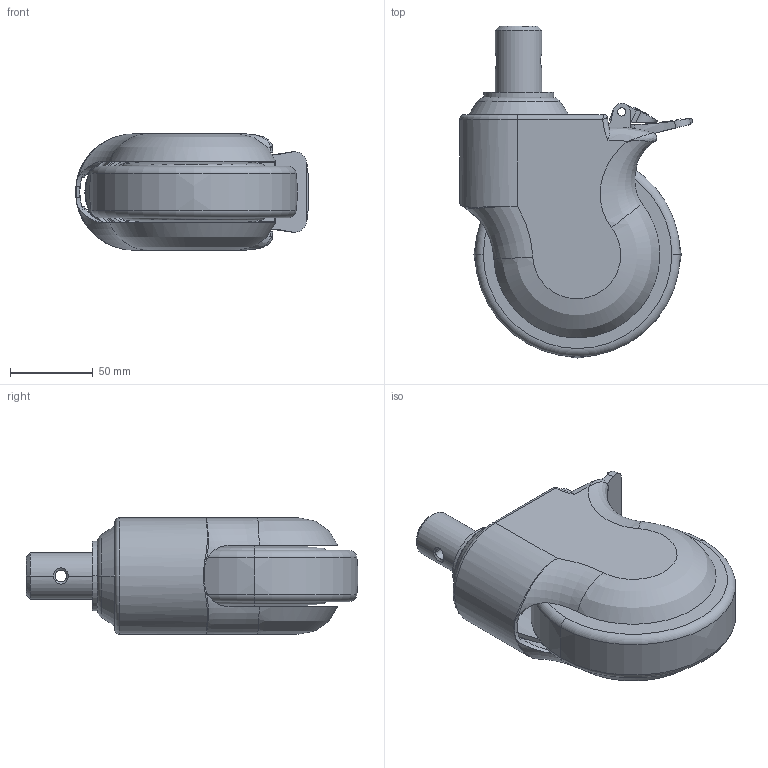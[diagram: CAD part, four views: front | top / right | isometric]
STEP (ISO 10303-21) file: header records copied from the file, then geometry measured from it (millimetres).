
FILE_DESCRIPTION((''),'2;1');
FILE_NAME('E5765-57_ASM','2022-11-01T',('lenovo'),(''),'PRO/ENGINEER BY PARAMETRIC TECHNOLOGY CORPORATION, 2010280','PRO/ENGINEER BY PARAMETRIC TECHNOLOGY CORPORATION, 2010280','');
FILE_SCHEMA(('CONFIG_CONTROL_DESIGN'));
Length unit declared in the file: millimetre
Products named in the file (9): 1; E575-12; 570-03A; 570-36; 570-25; 575-77; 570-64; 571-64; E5765-57_ASM
Assembly tree (8 placements, depth 2):
  E5765-57_ASM
    1
    E575-12
    570-03A
    570-36
    570-25
    575-77
    570-64
    571-64
Bounding box: 140.26 x 200 x 70 mm (x, y, z)
Volume: 572110.5 mm3; surface area: 170680.8 mm2
Topology: 9 solids, 9 shells, 652 faces, 1711 edges, 1097 vertices
Faces by surface type: plane 311, cylinder 212, torus 62, cone 36, bspline 31
Entity records: 24171 total; most frequent: CARTESIAN_POINT 8156, ORIENTED_EDGE 3422, DIRECTION 3173, EDGE_CURVE 1711, AXIS2_PLACEMENT_3D 1160, VERTEX_POINT 1097, VECTOR 853, LINE 853
